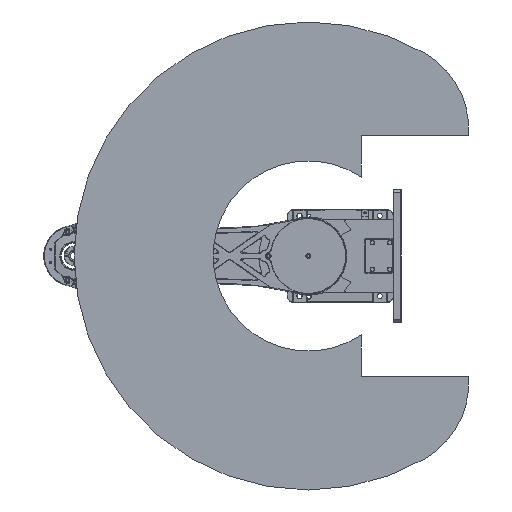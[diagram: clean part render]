
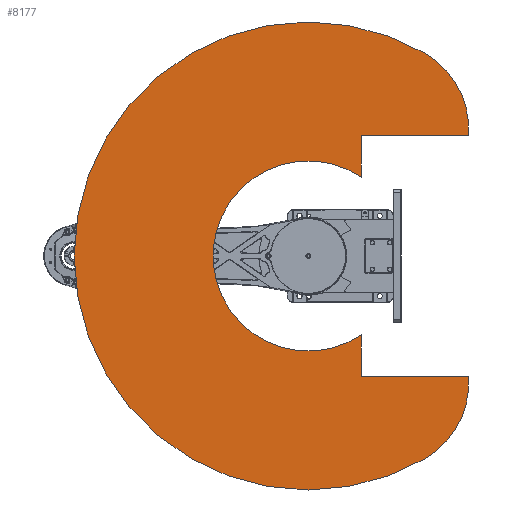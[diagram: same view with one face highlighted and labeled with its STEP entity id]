
A CAD part, front view. The second image highlights one B-rep face of the part: STEP entity #8177.
In plain terms, the highlighted planar face has unit normal (0, -1, 0).
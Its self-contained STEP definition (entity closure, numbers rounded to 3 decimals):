
#8177 = ADVANCED_FACE( '', ( #18700 ), #18701, .F. );
#18700 = FACE_OUTER_BOUND( '', #32255, .T. );
#18701 = PLANE( '', #32256 );
#32255 = EDGE_LOOP( '', ( #56447, #56448, #56449, #56450, #56451, #56452, #56453, #56454 ) );
#32256 = AXIS2_PLACEMENT_3D( '', #56455, #56456, #56457 );
#56447 = ORIENTED_EDGE( '', *, *, #76770, .T. );
#56448 = ORIENTED_EDGE( '', *, *, #78060, .F. );
#56449 = ORIENTED_EDGE( '', *, *, #77694, .F. );
#56450 = ORIENTED_EDGE( '', *, *, #74836, .F. );
#56451 = ORIENTED_EDGE( '', *, *, #75685, .T. );
#56452 = ORIENTED_EDGE( '', *, *, #75884, .T. );
#56453 = ORIENTED_EDGE( '', *, *, #77286, .T. );
#56454 = ORIENTED_EDGE( '', *, *, #73301, .T. );
#56455 = CARTESIAN_POINT( '', ( 95.263, 0., 55. ) );
#56456 = DIRECTION( '', ( 0., 1., 0. ) );
#56457 = DIRECTION( '', ( 0., 0., 1. ) );
#73301 = EDGE_CURVE( '', #88401, #88399, #88402, .T. );
#74836 = EDGE_CURVE( '', #90792, #90795, #90796, .T. );
#75685 = EDGE_CURVE( '', #90792, #92043, #92045, .T. );
#75884 = EDGE_CURVE( '', #92043, #92370, #92371, .T. );
#76770 = EDGE_CURVE( '', #88399, #93651, #93653, .T. );
#77286 = EDGE_CURVE( '', #92370, #88401, #94391, .T. );
#77694 = EDGE_CURVE( '', #90795, #94941, #94942, .T. );
#78060 = EDGE_CURVE( '', #94941, #93651, #95423, .T. );
#88399 = VERTEX_POINT( '', #111392 );
#88401 = VERTEX_POINT( '', #111395 );
#88402 = LINE( '', #111396, #111397 );
#90792 = VERTEX_POINT( '', #115638 );
#90795 = VERTEX_POINT( '', #115642 );
#90796 = CIRCLE( '', #115643, 130. );
#92043 = VERTEX_POINT( '', #117606 );
#92045 = LINE( '', #117609, #117610 );
#92370 = VERTEX_POINT( '', #118166 );
#92371 = LINE( '', #118167, #118168 );
#93651 = VERTEX_POINT( '', #120533 );
#93653 = LINE( '', #120536, #120537 );
#94391 = CIRCLE( '', #121598, 142.22 );
#94941 = VERTEX_POINT( '', #122485 );
#94942 = CIRCLE( '', #122486, 350. );
#95423 = CIRCLE( '', #123381, 130. );
#111392 = CARTESIAN_POINT( '', ( -180., 0., 79.5 ) );
#111395 = CARTESIAN_POINT( '', ( -117.925, 0., 79.5 ) );
#111396 = CARTESIAN_POINT( '', ( 180., 0., 79.5 ) );
#111397 = VECTOR( '', #133811, 1000. );
#115638 = CARTESIAN_POINT( '', ( 180., 0., 239.573 ) );
#115642 = CARTESIAN_POINT( '', ( 303.109, 0., 175. ) );
#115643 = AXIS2_PLACEMENT_3D( '', #135392, #135393, #135394 );
#117606 = CARTESIAN_POINT( '', ( 180., 0., 79.5 ) );
#117609 = CARTESIAN_POINT( '', ( 180., 0., 479.5 ) );
#117610 = VECTOR( '', #136296, 1000. );
#118166 = CARTESIAN_POINT( '', ( 117.925, 0., 79.5 ) );
#118167 = CARTESIAN_POINT( '', ( 180., 0., 79.5 ) );
#118168 = VECTOR( '', #136581, 1000. );
#120533 = CARTESIAN_POINT( '', ( -180., 0., 239.573 ) );
#120536 = CARTESIAN_POINT( '', ( -180., 0., 79.5 ) );
#120537 = VECTOR( '', #137476, 1000. );
#121598 = AXIS2_PLACEMENT_3D( '', #138142, #138143, #138144 );
#122485 = CARTESIAN_POINT( '', ( -303.109, 0., 175. ) );
#122486 = AXIS2_PLACEMENT_3D( '', #138544, #138545, #138546 );
#123381 = AXIS2_PLACEMENT_3D( '', #138826, #138827, #138828 );
#133811 = DIRECTION( '', ( -1., 0., 0. ) );
#135392 = CARTESIAN_POINT( '', ( 190.526, 0., 110. ) );
#135393 = DIRECTION( '', ( 0., 1., 0. ) );
#135394 = DIRECTION( '', ( 1., 0., 0. ) );
#136296 = DIRECTION( '', ( 0., 0., -1. ) );
#136581 = DIRECTION( '', ( -1., 0., 0. ) );
#137476 = DIRECTION( '', ( 0., 0., 1. ) );
#138142 = CARTESIAN_POINT( '', ( 0., 0., 0. ) );
#138143 = DIRECTION( '', ( 0., 1., 0. ) );
#138144 = DIRECTION( '', ( 1., 0., 0. ) );
#138544 = CARTESIAN_POINT( '', ( 0., 0., 0. ) );
#138545 = DIRECTION( '', ( 0., 1., 0. ) );
#138546 = DIRECTION( '', ( 1., 0., 0. ) );
#138826 = CARTESIAN_POINT( '', ( -190.526, 0., 110. ) );
#138827 = DIRECTION( '', ( 0., 1., 0. ) );
#138828 = DIRECTION( '', ( 1., 0., 0. ) );
